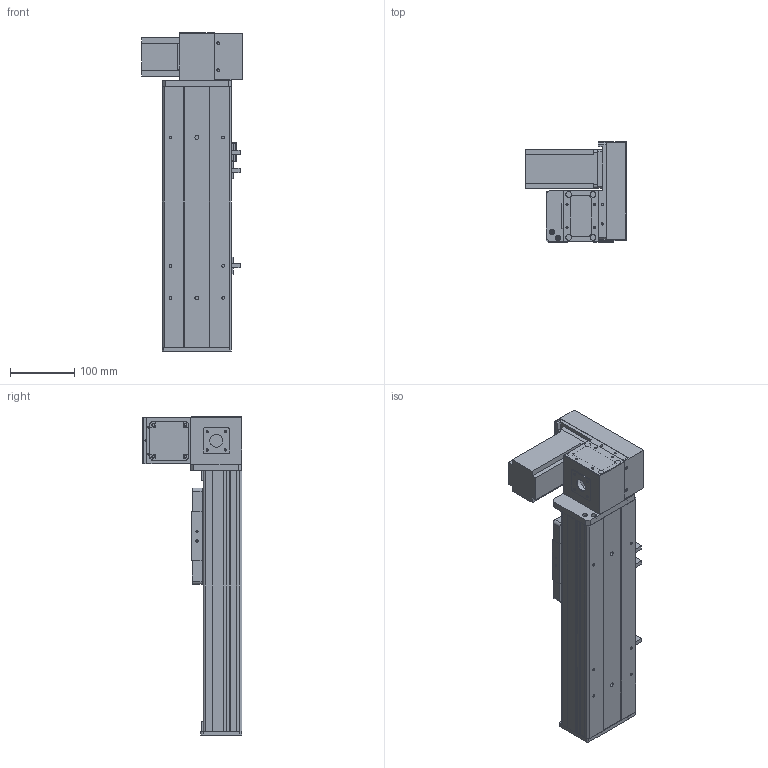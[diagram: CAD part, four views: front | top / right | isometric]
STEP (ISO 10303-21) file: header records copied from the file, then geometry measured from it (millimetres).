
FILE_DESCRIPTION (( 'STEP AP203' ), '1' );
FILE_NAME ('Y10CB-D90-S150-UR-P400W.STEP', '2020-02-16T02:55:52', ( '微软用户' ), ( '微软中国' ), 'SwSTEP 2.0', 'SolidWorks 2017', '' );
FILE_SCHEMA (( 'CONFIG_CONTROL_DESIGN' ));
Length unit declared in the file: millimetre
Products named in the file (18): Y100-135俋离換覜ん--; 0B-源倛裔啣; Y10B--々湍喘謫眊--666; 0B-埴倛裔啣; Y10B-耜蚾蟀諉啣----; 10CB-詩湍-; 00B-俋欶BM--; Y10CB- 掛极耜裔啣-毀---; 0CB-雄赽釱---; Y10CB-D90-S150-UR-P400W; Y10C---詩湍揤啣; 0Cb-俋欶---; 10CB9-掛极; Y10B-々湍喘謫眊楊擘啣--; 10CB-耜裔; 0B-萇儂楊擘啣; Y135C-陔俋离換覜結え-; san松下电机400不带刹车----
Assembly tree (21 placements, depth 2):
  Y10CB-D90-S150-UR-P400W
    0CB-雄赽釱---
    0Cb-俋欶---
    Y10B-々湍喘謫眊楊擘啣--
    0B-萇儂楊擘啣
    san松下电机400不带刹车----
    0B-源倛裔啣
    0B-埴倛裔啣
    10CB-詩湍-
    Y10CB- 掛极耜裔啣-毀---  x2
    Y10C---詩湍揤啣  x2
    10CB9-掛极
    10CB-耜裔
    Y135C-陔俋离換覜結え-
    Y100-135俋离換覜ん--  x3
    Y10B--々湍喘謫眊--666
    Y10B-耜蚾蟀諉啣----
    00B-俋欶BM--
Bounding box: 157 x 155.5 x 496 mm (x, y, z)
Volume: 1652544.3 mm3; surface area: 663311.2 mm2
Topology: 21 solids, 21 shells, 942 faces, 2483 edges, 1634 vertices
Faces by surface type: plane 469, cylinder 449, cone 24
Entity records: 28912 total; most frequent: CARTESIAN_POINT 4877, DIRECTION 4726, ORIENTED_EDGE 4436, EDGE_CURVE 2218, AXIS2_PLACEMENT_3D 1693, VERTEX_POINT 1460, VECTOR 1340, LINE 1340
